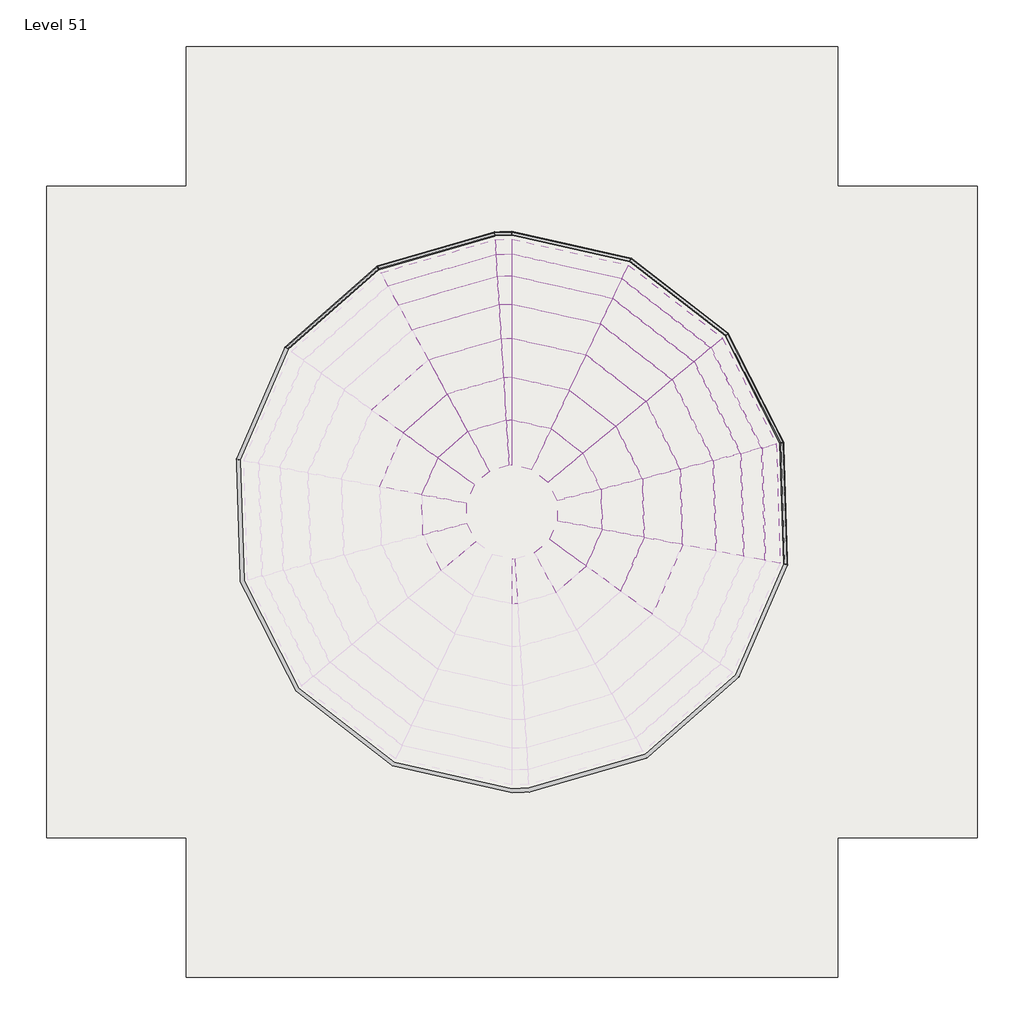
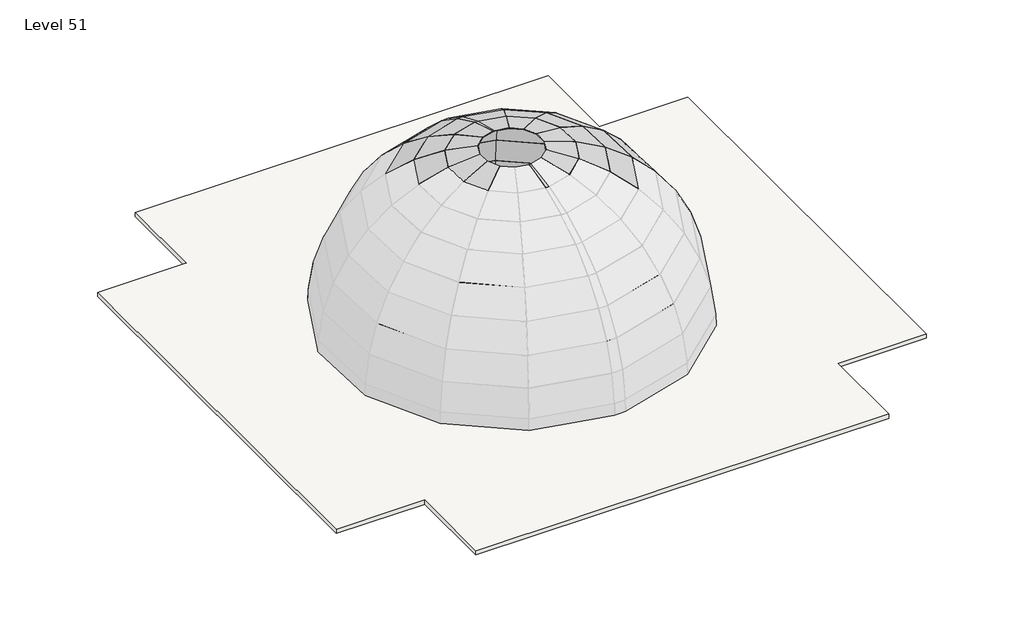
# One storey, part 2 of 2: 68 plates, 1 roof.
"""IFC4 building model written with IfcOpenShell, lengths in millimetres."""

from ifc_helpers import new_model, si_unit, frame, origin, place, context, project, spatial, polyline, outline, extrude, transform, mapped, element, save
from components import system_panel_glazed_7f2603d2, system_panel_glazed_0558268b, system_panel_glazed_10bcf4cf, system_panel_glazed_07e92868, system_panel_glazed_673ffbb1, system_panel_glazed_c6f68c0f, system_panel_glazed_d746c46d, system_panel_glazed_5827fd40, system_panel_glazed_fe6de704, system_panel_glazed_5ba3e6ec, system_panel_glazed_9fd5a8b6, system_panel_glazed_03378611, system_panel_glazed_ead59c80, system_panel_glazed_69a4d19d, system_panel_glazed_c8d27067, system_panel_glazed_4af60eb3, system_panel_glazed_c29e8d54, system_panel_glazed_620c5912

model = new_model("IFC4")

# Units and contexts
model_context = context("Model", 3, world=origin())
ifc_project = project(units=[si_unit("LENGTHUNIT", "METRE", prefix="MILLI")], contexts=[model_context])

# Site, building, storey
site = spatial("IfcSite", under=ifc_project)
building = spatial("IfcBuilding", under=site)
storey = spatial("IfcBuildingStorey", under=building, Name="Level 51", Elevation=152400.0)

# Plates
placement = place(None, origin())
system_panel_glazed_shape = system_panel_glazed_7f2603d2(model_context)
element("IfcPlate", 1, ObjectType="System Panel : Glazed", at=placement, inside=storey, context=model_context, shape_type="MappedRepresentation", body=[
    mapped(system_panel_glazed_shape, transform((3842.1863494, -4736.9079738, 161416.1055894), x_axis=(0.9759000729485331, -0.2182178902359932, 0.0), y_axis=(-0.055426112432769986, -0.24787311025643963, -0.9672057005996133), z_axis=(0.21106158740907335, 0.9438961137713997, -0.25399435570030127))),
])
element("IfcPlate", 2, ObjectType="System Panel : Glazed", at=placement, inside=storey, context=model_context, shape_type="MappedRepresentation", body=[
    mapped(system_panel_glazed_shape, transform((2192.2101148, -6863.0369016, 161416.1055894), x_axis=(-0.4536496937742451, 0.8911800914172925, 0.0), y_axis=(0.22635471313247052, 0.11522446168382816, -0.9672057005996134), z_axis=(-0.86195446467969, -0.4387725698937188, -0.253994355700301))),
])
element("IfcPlate", 3, ObjectType="System Panel : Glazed", at=placement, inside=storey, context=model_context, shape_type="MappedRepresentation", body=[
    mapped(system_panel_glazed_shape, transform((2031.0744212, -6234.256918, 161416.1055894), x_axis=(-0.030875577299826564, 0.9995232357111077, 0.0), y_axis=(0.25387326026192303, 0.007842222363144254, -0.9672057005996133), z_axis=(-0.9667445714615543, -0.02986303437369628, -0.2539943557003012))),
])
element("IfcPlate", 4, ObjectType="System Panel : Glazed", at=placement, inside=storey, context=model_context, shape_type="MappedRepresentation", body=[
    mapped(system_panel_glazed_shape, transform((2153.0935149, -5596.7301967, 161416.1055894), x_axis=(0.3977796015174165, 0.9174810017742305, 0.0), y_axis=(0.23303499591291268, -0.1010337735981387, -0.9672057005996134), z_axis=(-0.8873928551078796, 0.38473469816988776, -0.25399435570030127))),
])
element("IfcPlate", 5, ObjectType="System Panel : Glazed", at=placement, inside=storey, context=model_context, shape_type="MappedRepresentation", body=[
    mapped(system_panel_glazed_shape, transform((2535.0256637, -5071.8903989, 161416.1055894), x_axis=(0.7506672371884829, 0.6606804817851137, 0.0), y_axis=(0.16780911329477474, -0.19066524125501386, -0.9672057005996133), z_axis=(-0.639013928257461, 0.7260496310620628, -0.2539943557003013))),
])
element("IfcPlate", 6, ObjectType="System Panel : Glazed", at=placement, inside=storey, context=model_context, shape_type="MappedRepresentation", body=[
    mapped(system_panel_glazed_shape, transform((3104.1218869, -4759.70701, 161416.1055894), x_axis=(0.9605706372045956, 0.2780360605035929, 0.0), y_axis=(0.07061959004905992, -0.24397952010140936, -0.9672057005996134), z_axis=(-0.26891806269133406, 0.9290693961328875, -0.2539943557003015))),
])
element("IfcPlate", 7, ObjectType="System Panel : Glazed", at=placement, inside=storey, context=model_context, shape_type="MappedRepresentation", body=[
    mapped(system_panel_glazed_shape, transform((4429.4660261, -5013.3705589, 161416.1055894), x_axis=(0.7900143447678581, -0.6130883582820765, 0.0), y_axis=(-0.1557209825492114, -0.20065918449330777, -0.9672057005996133), z_axis=(0.5929825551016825, 0.7641063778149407, -0.2539943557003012))),
])
element("IfcPlate", 8, ObjectType="System Panel : Glazed", at=placement, inside=storey, context=model_context, shape_type="MappedRepresentation", body=[
    mapped(system_panel_glazed_shape, transform((4843.0639939, -5513.6361889, 161416.1055894), x_axis=(0.4536496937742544, -0.8911800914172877, 0.0), y_axis=(-0.22635471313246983, -0.11522446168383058, -0.9672057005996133), z_axis=(0.8619544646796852, 0.4387725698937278, -0.25399435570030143))),
])
element("IfcPlate", 9, ObjectType="System Panel : Glazed", at=placement, inside=storey, context=model_context, shape_type="MappedRepresentation", body=[
    mapped(system_panel_glazed_shape, transform((5004.1996875, -6142.4161726, 161416.1055894), x_axis=(0.030875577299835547, -0.9995232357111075, 0.0), y_axis=(-0.25387326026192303, -0.007842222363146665, -0.9672057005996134), z_axis=(0.966744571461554, 0.029863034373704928, -0.2539943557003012))),
])
element("IfcPlate", 10, ObjectType="System Panel : Glazed", at=placement, inside=storey, context=model_context, shape_type="MappedRepresentation", body=[
    mapped(system_panel_glazed_shape, transform((4882.1805938, -6779.9428939, 161416.1055894), x_axis=(-0.39777960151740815, -0.9174810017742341, 0.0), y_axis=(-0.23303499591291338, 0.10103377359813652, -0.9672057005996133), z_axis=(0.8873928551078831, -0.38473469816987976, -0.2539943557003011))),
])
element("IfcPlate", 11, ObjectType="System Panel : Glazed", at=placement, inside=storey, context=model_context, shape_type="MappedRepresentation", body=[
    mapped(system_panel_glazed_shape, transform((4500.2484451, -7304.7826916, 161416.1055894), x_axis=(-0.7506672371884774, -0.6606804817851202, 0.0), y_axis=(-0.1678091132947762, 0.19066524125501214, -0.9672057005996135), z_axis=(0.6390139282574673, -0.7260496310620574, -0.253994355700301))),
])
system_panel_glazed_2_shape = system_panel_glazed_0558268b(model_context)
element("IfcPlate", 12, ObjectType="System Panel : Glazed", at=placement, inside=storey, context=model_context, shape_type="MappedRepresentation", body=[
    mapped(system_panel_glazed_2_shape, transform((3470.6051084, -4665.7893764, 161416.1055894), x_axis=(0.9995232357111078, 0.030875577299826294, 0.0), y_axis=(0.007668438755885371, -0.2482474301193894, -0.968666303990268), z_axis=(-0.0299081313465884, 0.968204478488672, -0.24836584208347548))),
])
element("IfcPlate", 13, ObjectType="System Panel : Glazed", at=placement, inside=storey, context=model_context, shape_type="MappedRepresentation", body=[
    mapped(system_panel_glazed_2_shape, transform((3564.6690003, -7710.8837141, 161416.1055894), x_axis=(-0.9995232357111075, -0.030875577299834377, 0.0), y_axis=(-0.007668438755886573, 0.24824743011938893, -0.968666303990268), z_axis=(0.02990813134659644, -0.9682044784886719, -0.2483658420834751))),
])
system_panel_glazed_3_shape = system_panel_glazed_10bcf4cf(model_context)
element("IfcPlate", 14, ObjectType="System Panel : Glazed", at=placement, inside=storey, context=model_context, shape_type="MappedRepresentation", body=[
    mapped(system_panel_glazed_3_shape, transform((831.2673023, -5023.6442111, 161037.7653816), x_axis=(0.39777960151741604, 0.9174810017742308, 0.0), y_axis=(0.3798489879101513, -0.16468589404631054, -0.9102710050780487), z_axis=(-0.835156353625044, 0.362087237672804, -0.41401291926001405))),
])
element("IfcPlate", 15, ObjectType="System Panel : Glazed", at=placement, inside=storey, context=model_context, shape_type="MappedRepresentation", body=[
    mapped(system_panel_glazed_3_shape, transform((1583.1751324, -3990.3948376, 161037.7653816), x_axis=(0.7506672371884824, 0.6606804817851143, 0.0), y_axis=(0.2735302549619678, -0.3107859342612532, -0.9102710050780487), z_axis=(-0.6013982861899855, 0.6833106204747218, -0.4140129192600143))),
])
element("IfcPlate", 16, ObjectType="System Panel : Glazed", at=placement, inside=storey, context=model_context, shape_type="MappedRepresentation", body=[
    mapped(system_panel_glazed_3_shape, transform((2703.5519001, -3375.8010274, 161037.7653816), x_axis=(0.9605706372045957, 0.278036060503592, 0.0), y_axis=(0.1151105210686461, -0.3976886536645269, -0.9102710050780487), z_axis=(-0.2530881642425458, 0.874379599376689, -0.41401291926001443))),
])
element("IfcPlate", 17, ObjectType="System Panel : Glazed", at=placement, inside=storey, context=model_context, shape_type="MappedRepresentation", body=[
    mapped(system_panel_glazed_3_shape, transform((4156.5755594, -3330.9166838, 161037.7653816), x_axis=(0.9759000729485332, -0.2182178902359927, 0.0), y_axis=(-0.09034502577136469, -0.404035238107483, -0.9102710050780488), z_axis=(0.19863741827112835, 0.8883335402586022, -0.41401291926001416))),
])
element("IfcPlate", 18, ObjectType="System Panel : Glazed", at=placement, inside=storey, context=model_context, shape_type="MappedRepresentation", body=[
    mapped(system_panel_glazed_3_shape, transform((5312.7499971, -3875.1871336, 161037.7653816), x_axis=(0.7900143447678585, -0.6130883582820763, 0.0), y_axis=(-0.2538265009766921, -0.3270761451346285, -0.9102710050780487), z_axis=(0.5580765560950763, 0.7191271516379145, -0.41401291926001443))),
])
element("IfcPlate", 19, ObjectType="System Panel : Glazed", at=placement, inside=storey, context=model_context, shape_type="MappedRepresentation", body=[
    mapped(system_panel_glazed_3_shape, transform((6126.99816, -4860.0574714, 161037.7653816), x_axis=(0.4536496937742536, -0.8911800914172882, 0.0), y_axis=(-0.3689600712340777, -0.18781683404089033, -0.9102710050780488), z_axis=(0.8112153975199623, 0.41294416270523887, -0.41401291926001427))),
])
element("IfcPlate", 20, ObjectType="System Panel : Glazed", at=placement, inside=storey, context=model_context, shape_type="MappedRepresentation", body=[
    mapped(system_panel_glazed_3_shape, transform((6444.2251599, -6097.933347, 161037.7653816), x_axis=(0.030875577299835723, -0.9995232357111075, 0.0), y_axis=(-0.41381553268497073, -0.012782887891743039, -0.9102710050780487), z_axis=(0.9098370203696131, 0.02810514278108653, -0.41401291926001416))),
])
element("IfcPlate", 21, ObjectType="System Panel : Glazed", at=placement, inside=storey, context=model_context, shape_type="MappedRepresentation", body=[
    mapped(system_panel_glazed_3_shape, transform((6204.0068064, -7353.0288794, 161037.7653816), x_axis=(-0.39777960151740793, -0.9174810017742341, 0.0), y_axis=(-0.3798489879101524, 0.1646858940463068, -0.9102710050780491), z_axis=(0.8351563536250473, -0.3620872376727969, -0.4140129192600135))),
])
system_panel_glazed_4_shape = system_panel_glazed_07e92868(model_context)
element("IfcPlate", 22, ObjectType="System Panel : Glazed", at=placement, inside=storey, context=model_context, shape_type="MappedRepresentation", body=[
    mapped(system_panel_glazed_4_shape, transform((3425.0455076, -3190.9058718, 161037.7653816), x_axis=(0.9995232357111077, 0.03087557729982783, 0.0), y_axis=(0.012531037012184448, -0.4056624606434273, -0.9139370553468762), z_axis=(-0.02821833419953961, 0.9135013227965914, -0.40585595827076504))),
])
system_panel_glazed_5_shape = system_panel_glazed_673ffbb1(model_context)
element("IfcPlate", 23, ObjectType="System Panel : Glazed", at=placement, inside=storey, context=model_context, shape_type="MappedRepresentation", body=[
    mapped(system_panel_glazed_5_shape, transform((685.0596546, -2969.9532126, 160419.4872466), x_axis=(0.7506672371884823, 0.6606804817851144, 0.0), y_axis=(0.3707976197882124, -0.4213014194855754, -0.8276558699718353), z_axis=(-0.5468160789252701, 0.6212941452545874, -0.5612359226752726))),
])
element("IfcPlate", 24, ObjectType="System Panel : Glazed", at=placement, inside=storey, context=model_context, shape_type="MappedRepresentation", body=[
    mapped(system_panel_glazed_5_shape, transform((2325.5953897, -2070.0210314, 160419.4872466), x_axis=(0.9605706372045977, 0.2780360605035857, 0.0), y_axis=(0.15604382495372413, -0.5391067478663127, -0.8276558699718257), z_axis=(-0.23011817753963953, 0.7950219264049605, -0.5612359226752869))),
])
element("IfcPlate", 25, ObjectType="System Panel : Glazed", at=placement, inside=storey, context=model_context, shape_type="MappedRepresentation", body=[
    mapped(system_panel_glazed_5_shape, transform((4453.2164776, -2004.2981677, 160419.4872466), x_axis=(0.9759000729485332, -0.21821789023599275, 0.0), y_axis=(-0.12247171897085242, -0.5477101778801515, -0.8276558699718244), z_axis=(0.18060931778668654, 0.8077094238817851, -0.5612359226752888))),
])
element("IfcPlate", 26, ObjectType="System Panel : Glazed", at=placement, inside=storey, context=model_context, shape_type="MappedRepresentation", body=[
    mapped(system_panel_glazed_5_shape, transform((6146.1697197, -2801.2578587, 160419.4872466), x_axis=(0.7900143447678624, -0.6130883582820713, 0.0), y_axis=(-0.3440872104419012, -0.44338442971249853, -0.8276558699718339), z_axis=(0.5074261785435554, 0.6538600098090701, -0.5612359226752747))),
])
element("IfcPlate", 27, ObjectType="System Panel : Glazed", at=placement, inside=storey, context=model_context, shape_type="MappedRepresentation", body=[
    mapped(system_panel_glazed_5_shape, transform((7338.4500732, -4243.3753947, 160419.4872466), x_axis=(0.4536496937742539, -0.8911800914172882, 0.0), y_axis=(-0.5001622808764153, -0.2546045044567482, -0.8276558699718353), z_axis=(0.7375904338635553, 0.3754658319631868, -0.5612359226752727))),
])
element("IfcPlate", 28, ObjectType="System Panel : Glazed", at=placement, inside=storey, context=model_context, shape_type="MappedRepresentation", body=[
    mapped(system_panel_glazed_5_shape, transform((7802.9565183, -6055.9617213, 160419.4872466), x_axis=(0.0308755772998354, -0.9995232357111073, 0.0), y_axis=(-0.5609683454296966, -0.017328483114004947, -0.8276558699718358), z_axis=(0.8272612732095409, 0.025554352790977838, -0.561235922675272))),
])
element("IfcPlate", 29, ObjectType="System Panel : Glazed", at=placement, inside=storey, context=model_context, shape_type="MappedRepresentation", body=[
    mapped(system_panel_glazed_5_shape, transform((7451.211637, -7893.7623001, 160419.4872466), x_axis=(-0.3977796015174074, -0.9174810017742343, 0.0), y_axis=(-0.514923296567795, 0.22324820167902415, -0.827655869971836), z_axis=(0.7593585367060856, -0.32922462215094, -0.5612359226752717))),
])
system_panel_glazed_6_shape = system_panel_glazed_c6f68c0f(model_context)
element("IfcPlate", 30, ObjectType="System Panel : Glazed", at=placement, inside=storey, context=model_context, shape_type="MappedRepresentation", body=[
    mapped(system_panel_glazed_6_shape, transform((3382.0578941, -1799.2843304, 160419.4872466), x_axis=(0.9995232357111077, 0.030875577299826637, 0.0), y_axis=(0.017044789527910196, -0.5517844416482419, -0.8338125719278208), z_axis=(-0.025744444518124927, 0.833415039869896, -0.5520476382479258))),
])
system_panel_glazed_7_shape = system_panel_glazed_d746c46d(model_context)
element("IfcPlate", 31, ObjectType="System Panel : Glazed", at=placement, inside=storey, context=model_context, shape_type="MappedRepresentation", body=[
    mapped(system_panel_glazed_7_shape, transform((1980.7511478, -878.6386886, 159578.4455769), x_axis=(0.9605706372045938, 0.27803606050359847, 0.0), y_axis=(0.19227670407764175, -0.6642856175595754, -0.7223256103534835), z_axis=(-0.2008325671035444, 0.6938447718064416, -0.6915531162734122))),
])
element("IfcPlate", 32, ObjectType="System Panel : Glazed", at=placement, inside=storey, context=model_context, shape_type="MappedRepresentation", body=[
    mapped(system_panel_glazed_7_shape, transform((4723.8690785, -793.9029399, 159578.4455769), x_axis=(0.9759000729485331, -0.218217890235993, 0.0), y_axis=(-0.15090926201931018, -0.6748867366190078, -0.7223256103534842), z_axis=(0.15762437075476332, 0.7049176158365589, -0.6915531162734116))),
])
element("IfcPlate", 33, ObjectType="System Panel : Glazed", at=placement, inside=storey, context=model_context, shape_type="MappedRepresentation", body=[
    mapped(system_panel_glazed_7_shape, transform((6906.5746461, -1821.4141028, 159578.4455769), x_axis=(0.7900143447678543, -0.6130883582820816, 0.0), y_axis=(-0.4239831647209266, -0.5463368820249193, -0.7223256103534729), z_axis=(0.44284942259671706, 0.5706475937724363, -0.6915531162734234))),
])
element("IfcPlate", 34, ObjectType="System Panel : Glazed", at=placement, inside=storey, context=model_context, shape_type="MappedRepresentation", body=[
    mapped(system_panel_glazed_7_shape, transform((8443.7682914, -3680.7200167, 159578.4455769), x_axis=(0.4536496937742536, -0.8911800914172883, 0.0), y_axis=(-0.6162983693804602, -0.3137228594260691, -0.7223256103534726), z_axis=(0.643722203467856, 0.32768279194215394, -0.6915531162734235))),
])
element("IfcPlate", 35, ObjectType="System Panel : Glazed", at=placement, inside=storey, context=model_context, shape_type="MappedRepresentation", body=[
    mapped(system_panel_glazed_7_shape, transform((9042.6512249, -6017.6671741, 159578.4455769), x_axis=(0.030875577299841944, -0.9995232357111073, 0.0), y_axis=(-0.6912234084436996, -0.02135210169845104, -0.7223256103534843), z_axis=(0.7219812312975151, 0.02230222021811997, -0.6915531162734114))),
])
system_panel_glazed_8_shape = system_panel_glazed_5827fd40(model_context)
element("IfcPlate", 36, ObjectType="System Panel : Glazed", at=placement, inside=storey, context=model_context, shape_type="MappedRepresentation", body=[
    mapped(system_panel_glazed_8_shape, transform((3342.8363685, -529.5809061, 159578.4455769), x_axis=(0.9995232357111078, 0.03087557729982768, 0.0), y_axis=(0.021084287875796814, -0.6825535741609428, -0.7305313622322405), z_axis=(-0.02255557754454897, 0.7301830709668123, -0.682879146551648))),
])
system_panel_glazed_9_shape = system_panel_glazed_fe6de704(model_context)
element("IfcPlate", 37, ObjectType="System Panel : Glazed", at=placement, inside=storey, context=model_context, shape_type="MappedRepresentation", body=[
    mapped(system_panel_glazed_9_shape, transform((1678.5981812, 165.2520471, 158538.0026411), x_axis=(0.9605706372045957, 0.2780360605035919, 0.0), y_axis=(0.22288742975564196, -0.7700408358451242, -0.5977945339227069), z_axis=(-0.16620843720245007, 0.5742238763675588, -0.8016493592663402))),
])
element("IfcPlate", 38, ObjectType="System Panel : Glazed", at=placement, inside=storey, context=model_context, shape_type="MappedRepresentation", body=[
    mapped(system_panel_glazed_9_shape, transform((4961.0152343, 266.64691, 158538.0026411), x_axis=(0.9759000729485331, -0.2182178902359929, 0.0), y_axis=(-0.1749342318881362, -0.7823296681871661, -0.5977945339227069), z_axis=(0.13044946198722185, 0.5833877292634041, -0.8016493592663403))),
])
element("IfcPlate", 39, ObjectType="System Panel : Glazed", at=placement, inside=storey, context=model_context, shape_type="MappedRepresentation", body=[
    mapped(system_panel_glazed_9_shape, transform((7572.8424171, -962.8737481, 158538.0026411), x_axis=(0.7900143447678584, -0.6130883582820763, 0.0), y_axis=(-0.491481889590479, -0.6333144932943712, -0.5977945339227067), z_axis=(0.36650086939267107, 0.47226625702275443, -0.8016493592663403))),
])
element("IfcPlate", 40, ObjectType="System Panel : Glazed", at=placement, inside=storey, context=model_context, shape_type="MappedRepresentation", body=[
    mapped(system_panel_glazed_9_shape, transform((9412.2495308, -3187.7206534, 158538.0026411), x_axis=(0.45364969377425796, -0.8911800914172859, 0.0), y_axis=(-0.714413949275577, -0.3636679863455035, -0.5977945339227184), z_axis=(0.5327425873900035, 0.27118930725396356, -0.8016493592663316))),
])
element("IfcPlate", 41, ObjectType="System Panel : Glazed", at=placement, inside=storey, context=model_context, shape_type="MappedRepresentation", body=[
    mapped(system_panel_glazed_9_shape, transform((10128.8733157, -5984.1134428, 158538.0026411), x_axis=(0.030875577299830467, -0.9995232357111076, 0.0), y_axis=(-0.8012671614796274, -0.024751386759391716, -0.5977945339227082), z_axis=(0.5975095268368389, 0.018457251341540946, -0.8016493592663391))),
])
system_panel_glazed_10_shape = system_panel_glazed_5ba3e6ec(model_context)
element("IfcPlate", 42, ObjectType="System Panel : Glazed", at=placement, inside=storey, context=model_context, shape_type="MappedRepresentation", body=[
    mapped(system_panel_glazed_10_shape, transform((3308.4704174, 582.9348616, 158538.0026411), x_axis=(0.9995232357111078, 0.030875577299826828, 0.0), y_axis=(0.024537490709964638, -0.7943427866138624, -0.6069740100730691), z_axis=(-0.018740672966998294, 0.6066846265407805, -0.794721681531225))),
])
system_panel_glazed_11_shape = system_panel_glazed_9fd5a8b6(model_context)
element("IfcPlate", 43, ObjectType="System Panel : Glazed", at=placement, inside=storey, context=model_context, shape_type="MappedRepresentation", body=[
    mapped(system_panel_glazed_11_shape, transform((1427.5296276, 1032.6542108, 157327.0596321), x_axis=(0.9605706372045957, 0.27803606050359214, 0.0), y_axis=(0.24717695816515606, -0.8539573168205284, -0.4578869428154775), z_axis=(-0.12730908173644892, 0.43983275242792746, -0.889010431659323))),
])
element("IfcPlate", 44, ObjectType="System Panel : Glazed", at=placement, inside=storey, context=model_context, shape_type="MappedRepresentation", body=[
    mapped(system_panel_glazed_11_shape, transform((5158.0675518, 1147.8916639, 157327.0596321), x_axis=(0.9759000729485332, -0.21821789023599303, 0.0), y_axis=(-0.1939979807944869, -0.8675853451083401, -0.4578869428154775), z_axis=(0.0999191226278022, 0.44685190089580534, -0.889010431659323))),
])
element("IfcPlate", 45, ObjectType="System Panel : Glazed", at=placement, inside=storey, context=model_context, shape_type="MappedRepresentation", body=[
    mapped(system_panel_glazed_11_shape, transform((8126.4655947, -249.4851378, 157327.0596321), x_axis=(0.7900143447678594, -0.6130883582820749, 0.0), y_axis=(-0.5450419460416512, -0.7023309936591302, -0.45788694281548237), z_axis=(0.280725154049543, 0.36173725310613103, -0.8890104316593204))),
])
element("IfcPlate", 46, ObjectType="System Panel : Glazed", at=placement, inside=storey, context=model_context, shape_type="MappedRepresentation", body=[
    mapped(system_panel_glazed_11_shape, transform((10216.9915348, -2778.0717315, 157327.0596321), x_axis=(0.4536496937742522, -0.891180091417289, 0.0), y_axis=(-0.7922683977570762, -0.403299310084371, -0.45788694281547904), z_axis=(0.40805972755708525, 0.20772027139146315, -0.8890104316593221))),
])
element("IfcPlate", 47, ObjectType="System Panel : Glazed", at=placement, inside=storey, context=model_context, shape_type="MappedRepresentation", body=[
    mapped(system_panel_glazed_11_shape, transform((11031.4499547, -5956.2325754, 157327.0596321), x_axis=(0.03087557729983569, -0.9995232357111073, 0.0), y_axis=(-0.8885865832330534, -0.027448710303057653, -0.45788694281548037), z_axis=(0.4576686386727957, 0.014137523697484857, -0.8890104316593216))),
])
system_panel_glazed_12_shape = system_panel_glazed_03378611(model_context)
element("IfcPlate", 48, ObjectType="System Panel : Glazed", at=placement, inside=storey, context=model_context, shape_type="MappedRepresentation", body=[
    mapped(system_panel_glazed_12_shape, transform((3279.9146508, 1507.3597569, 157327.0596321), x_axis=(0.9995232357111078, 0.030875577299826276, 0.0), y_axis=(0.02730879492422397, -0.8840571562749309, -0.46658029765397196), z_axis=(-0.0144059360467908, 0.46635784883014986, -0.8844788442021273))),
])
system_panel_glazed_13_shape = system_panel_glazed_ead59c80(model_context)
element("IfcPlate", 49, ObjectType="System Panel : Glazed", at=placement, inside=storey, context=model_context, shape_type="MappedRepresentation", body=[
    mapped(system_panel_glazed_13_shape, transform((1234.5196137, 1699.4732979, 155979.2538554), x_axis=(0.9605706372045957, 0.27803606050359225, 0.0), y_axis=(0.26464974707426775, -0.914323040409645, -0.30655160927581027), z_axis=(-0.08523240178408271, 0.2944644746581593, -0.9518540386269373))),
])
element("IfcPlate", 50, ObjectType="System Panel : Glazed", at=placement, inside=storey, context=model_context, shape_type="MappedRepresentation", body=[
    mapped(system_panel_glazed_13_shape, transform((5309.5523554, 1825.3523009, 155979.2538554), x_axis=(0.9759000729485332, -0.21821789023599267, 0.0), y_axis=(-0.2077115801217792, -0.9289144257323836, -0.30655160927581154), z_axis=(0.06689504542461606, 0.2991637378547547, -0.9518540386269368))),
])
element("IfcPlate", 51, ObjectType="System Panel : Glazed", at=placement, inside=storey, context=model_context, shape_type="MappedRepresentation", body=[
    mapped(system_panel_glazed_13_shape, transform((8552.0657574, 298.9353779, 155979.2538554), x_axis=(0.7900143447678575, -0.6130883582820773, 0.0), y_axis=(-0.5835706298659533, -0.7519783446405, -0.30655160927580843), z_axis=(0.18794322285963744, 0.24218016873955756, -0.9518540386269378))),
])
element("IfcPlate", 52, ObjectType="System Panel : Glazed", at=placement, inside=storey, context=model_context, shape_type="MappedRepresentation", body=[
    mapped(system_panel_glazed_13_shape, transform((10835.6403587, -2463.1523877, 155979.2538554), x_axis=(0.4536496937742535, -0.8911800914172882, 0.0), y_axis=(-0.8482733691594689, -0.43180829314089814, -0.3065516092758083), z_axis=(0.27319269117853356, 0.13906704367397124, -0.9518540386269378))),
])
element("IfcPlate", 53, ObjectType="System Panel : Glazed", at=placement, inside=storey, context=model_context, shape_type="MappedRepresentation", body=[
    mapped(system_panel_glazed_13_shape, transform((11725.3095688, -5934.7990405, 155979.2538554), x_axis=(0.030875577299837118, -0.9995232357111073, 0.0), y_axis=(-0.9514002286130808, -0.02938904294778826, -0.30655160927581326), z_axis=(0.3064054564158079, 0.009464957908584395, -0.9518540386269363))),
])
system_panel_glazed_14_shape = system_panel_glazed_69a4d19d(model_context)
element("IfcPlate", 54, ObjectType="System Panel : Glazed", at=placement, inside=storey, context=model_context, shape_type="MappedRepresentation", body=[
    mapped(system_panel_glazed_14_shape, transform((3257.9622842, 2218.0153105, 155979.2538554), x_axis=(0.9995232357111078, 0.030875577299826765, 0.0), y_axis=(0.029321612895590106, -0.9492173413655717, -0.31325178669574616), z_axis=(-0.00967182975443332, 0.3131024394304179, -0.9496701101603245))),
])
system_panel_glazed_15_shape = system_panel_glazed_c8d27067(model_context)
element("IfcPlate", 55, ObjectType="System Panel : Glazed", at=placement, inside=storey, context=model_context, shape_type="MappedRepresentation", body=[
    mapped(system_panel_glazed_15_shape, transform((-2215.5357132, 325.7123488, 154532.0243606), x_axis=(0.7506672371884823, 0.6606804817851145, 0.0), y_axis=(0.6534295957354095, -0.7424287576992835, -0.1477474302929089), z_axis=(-0.09761384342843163, 0.11090915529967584, -0.9890251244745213))),
])
element("IfcPlate", 56, ObjectType="System Panel : Glazed", at=placement, inside=storey, context=model_context, shape_type="MappedRepresentation", body=[
    mapped(system_panel_glazed_15_shape, transform((1104.9295287, 2147.1865561, 154532.0243606), x_axis=(0.9605706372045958, 0.2780360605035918, 0.0), y_axis=(0.27498464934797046, -0.9500284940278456, -0.14774743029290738), z_axis=(-0.041079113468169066, 0.1419218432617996, -0.9890251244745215))),
])
element("IfcPlate", 57, ObjectType="System Panel : Glazed", at=placement, inside=storey, context=model_context, shape_type="MappedRepresentation", body=[
    mapped(system_panel_glazed_15_shape, transform((5411.261734, 2280.21047, 154532.0243606), x_axis=(0.9759000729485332, -0.21821789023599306, 0.0), y_axis=(-0.21582297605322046, -0.9651896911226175, -0.1477474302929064), z_axis=(0.03224113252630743, 0.14418672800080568, -0.9890251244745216))),
])
element("IfcPlate", 58, ObjectType="System Panel : Glazed", at=placement, inside=storey, context=model_context, shape_type="MappedRepresentation", body=[
    mapped(system_panel_glazed_15_shape, transform((8837.8206782, 667.1538957, 154532.0243606), x_axis=(0.7900143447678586, -0.6130883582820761, 0.0), y_axis=(-0.6063597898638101, -0.7813440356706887, -0.14774743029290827), z_axis=(0.09058222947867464, 0.11672258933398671, -0.9890251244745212))),
])
element("IfcPlate", 59, ObjectType="System Panel : Glazed", at=placement, inside=storey, context=model_context, shape_type="MappedRepresentation", body=[
    mapped(system_panel_glazed_15_shape, transform((11251.0113131, -2251.7103817, 154532.0243606), x_axis=(0.45364969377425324, -0.8911800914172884, 0.0), y_axis=(-0.8813995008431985, -0.4486709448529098, -0.14774743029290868), z_axis=(0.13166956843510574, 0.06702557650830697, -0.9890251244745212))),
])
element("IfcPlate", 60, ObjectType="System Panel : Glazed", at=placement, inside=storey, context=model_context, shape_type="MappedRepresentation", body=[
    mapped(system_panel_glazed_15_shape, transform((12191.1782796, -5920.408214, 154532.0243606), x_axis=(0.030875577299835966, -0.9995232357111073, 0.0), y_axis=(-0.9885535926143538, -0.03053672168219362, -0.14774743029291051), z_axis=(0.14767698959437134, 0.004561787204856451, -0.989025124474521))),
])
system_panel_glazed_16_shape = system_panel_glazed_4af60eb3(model_context)
element("IfcPlate", 61, ObjectType="System Panel : Glazed", at=placement, inside=storey, context=model_context, shape_type="MappedRepresentation", body=[
    mapped(system_panel_glazed_16_shape, transform((3243.2231057, 2695.1610903, 154532.0243606), x_axis=(0.9995232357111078, 0.03087557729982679, 0.0), y_axis=(0.030520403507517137, -0.9880253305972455, -0.15124301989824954), z_axis=(-0.004669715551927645, 0.1511709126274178, -0.9884966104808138))),
])
system_panel_glazed_17_shape = system_panel_glazed_c29e8d54(model_context)
element("IfcPlate", 62, ObjectType="System Panel : Glazed", at=placement, inside=storey, context=model_context, shape_type="MappedRepresentation", body=[
    mapped(system_panel_glazed_17_shape, transform((-2364.2180919, 494.6457342, 153025.5719668), x_axis=(0.7506672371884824, 0.6606804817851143, 0.0), y_axis=(0.6603118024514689, -0.7502483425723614, -0.033402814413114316), z_axis=(-0.02206858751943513, 0.02507439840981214, -0.9994419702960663))),
])
element("IfcPlate", 63, ObjectType="System Panel : Glazed", at=placement, inside=storey, context=model_context, shape_type="MappedRepresentation", body=[
    mapped(system_panel_glazed_17_shape, transform((1042.3590972, 2363.3575058, 153025.5719668), x_axis=(0.9605706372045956, 0.27803606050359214, 0.0), y_axis=(0.2778809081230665, -0.960034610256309, -0.033402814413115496), z_axis=(-0.009287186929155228, 0.0320857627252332, -0.9994419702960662))),
])
element("IfcPlate", 64, ObjectType="System Panel : Glazed", at=placement, inside=storey, context=model_context, shape_type="MappedRepresentation", body=[
    mapped(system_panel_glazed_17_shape, transform((5460.3704271, 2499.8312219, 153025.5719668), x_axis=(0.9759000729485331, -0.21821789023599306, 0.0), y_axis=(-0.2180961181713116, -0.9753554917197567, -0.033402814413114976), z_axis=(0.00728909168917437, 0.03259780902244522, -0.9994419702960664))),
])
element("IfcPlate", 65, ObjectType="System Panel : Glazed", at=placement, inside=storey, context=model_context, shape_type="MappedRepresentation", body=[
    mapped(system_panel_glazed_17_shape, transform((8975.7927206, 844.9421234, 153025.5719668), x_axis=(0.7900143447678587, -0.6130883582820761, 0.0), y_axis=(-0.6127462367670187, -0.7895734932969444, -0.03340281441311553), z_axis=(0.02047887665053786, 0.026388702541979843, -0.9994419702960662))),
])
element("IfcPlate", 66, ObjectType="System Panel : Glazed", at=placement, inside=storey, context=model_context, shape_type="MappedRepresentation", body=[
    mapped(system_panel_glazed_17_shape, transform((11451.5663158, -2149.6191025, 153025.5719668), x_axis=(0.4536496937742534, -0.8911800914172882, 0.0), y_axis=(-0.890682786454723, -0.45339654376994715, -0.033402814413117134), z_axis=(0.029767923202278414, 0.015153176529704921, -0.9994419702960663))),
])
element("IfcPlate", 67, ObjectType="System Panel : Glazed", at=placement, inside=storey, context=model_context, shape_type="MappedRepresentation", body=[
    mapped(system_panel_glazed_17_shape, transform((12416.1152898, -5913.4598413, 153025.5719668), x_axis=(0.030875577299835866, -0.9995232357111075, 0.0), y_axis=(-0.9989654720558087, -0.0308583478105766, -0.033402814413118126), z_axis=(0.033386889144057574, 0.001031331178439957, -0.9994419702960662))),
])
system_panel_glazed_18_shape = system_panel_glazed_620c5912(model_context)
element("IfcPlate", 68, ObjectType="System Panel : Glazed", at=placement, inside=storey, context=model_context, shape_type="MappedRepresentation", body=[
    mapped(system_panel_glazed_18_shape, transform((3236.1065368, 2925.5430468, 153025.5719668), x_axis=(0.9995232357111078, 0.030875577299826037, 0.0), y_axis=(0.030857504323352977, -0.9989381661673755, -0.034210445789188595), z_axis=(-0.0010562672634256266, 0.03419413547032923, -0.9994146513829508))),
])

# Roof
element("IfcRoof", 69, ObjectType="Generic - 9\"", at=placement, inside=storey, context=model_context, shape_type="SweptSolid", body=[
    extrude(outline(polyline([(-7150.3629456, 4479.6634547), (-7150.3629456, 9051.6634547), (14185.6370544, 9051.6634547), (14185.6370544, 4479.6634547), (18757.6370544, 4479.6634547), (18757.6370544, -16856.3365453), (14185.6370544, -16856.3365453), (14185.6370544, -21428.3365453), (-7150.3629456, -21428.3365453), (-7150.3629456, -16856.3365453), (-11722.3629456, -16856.3365453), (-11722.3629456, 4479.6634547), (-7150.3629456, 4479.6634547)])), frame((0.0, 0.0, 152171.4), z_axis=(0.0, 0.0, 1.0), x_axis=(1.0, 0.0, 0.0)), (0.0, 0.0, 1.0), 228.6),
])

save(model, "model.ifc")
